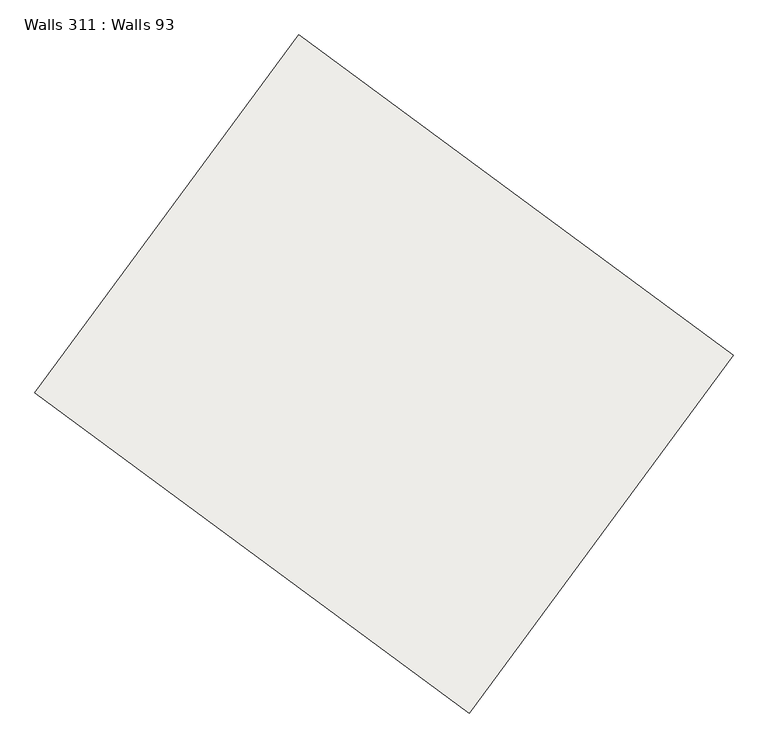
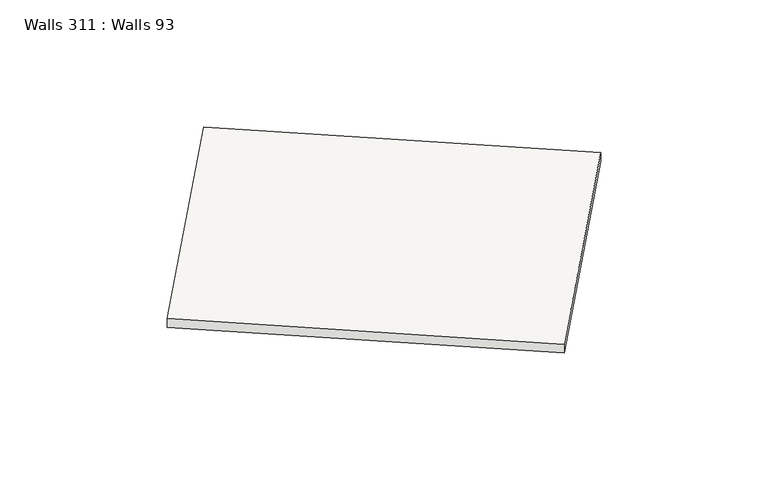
"""IFC4 building model written with IfcOpenShell, lengths in millimetres: slab geometry, Walls 311 : Walls 93."""

from ifc_helpers import new_model, si_unit, frame, origin, place, context, project, spatial, polyline, outline, extrude, source, transform, mapped, element, save


def walls_311_walls_93_228bb6dc(model_context):
    return source(origin(), model_context, "Body", "SweptSolid", [
        extrude(outline(polyline([(-50.0, 0.0), (50.0, 0.0), (0.0, -3047.6769969), (-100.0, -3047.6769969), (-50.0, 0.0)])), frame((83144.528457, -65841.2093967, 639510.0), z_axis=(-0.8047049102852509, 0.5936750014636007, 0.0), x_axis=(0.0, 0.0, 1.0)), (0.0, 0.0, 1.0), 3699.9805598),
    ])


if __name__ == "__main__":
    model = new_model("IFC4")
    model_context = context("Model", 3, world=origin())
    ifc_project = project(units=[si_unit("LENGTHUNIT", "METRE", prefix="MILLI")], contexts=[model_context])
    site = spatial("IfcSite", under=ifc_project)
    building = spatial("IfcBuilding", under=site)
    placement = place(None, origin())
    walls_311_walls_93_shape = walls_311_walls_93_228bb6dc(model_context)
    element("IfcSlab", 1, ObjectType="Walls 311 : Walls 93", at=placement, inside=building, context=model_context, shape_type="MappedRepresentation", body=[
        mapped(walls_311_walls_93_shape, transform((0.0, 0.0, 0.0), x_axis=(1.0, 0.0, 0.0), y_axis=(0.0, 1.0, 0.0), z_axis=(0.0, 0.0, 1.0))),
    ])
    save(model, "model.ifc")
